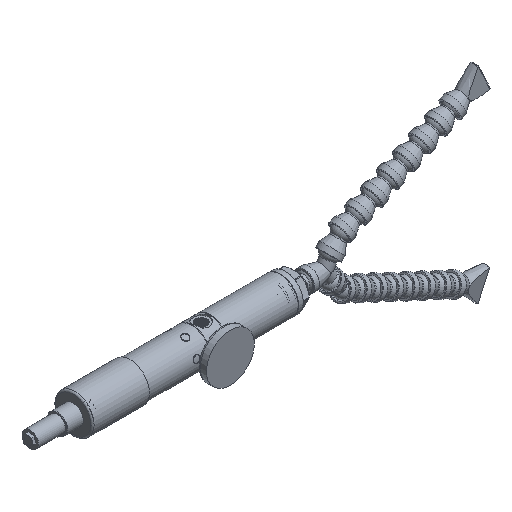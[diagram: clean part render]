
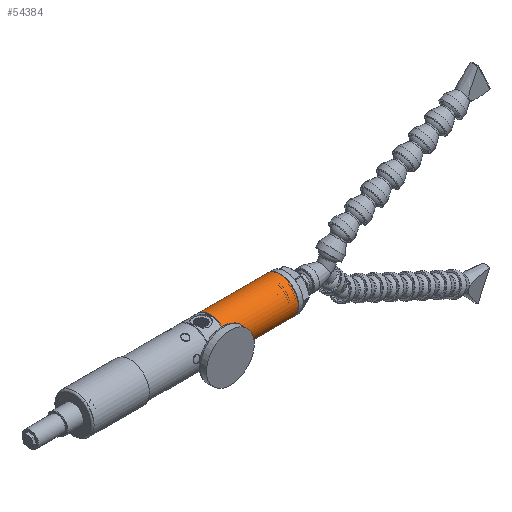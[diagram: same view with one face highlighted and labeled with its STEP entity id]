
A CAD part, isometric view. The second image highlights one B-rep face of the part: STEP entity #54384.
In plain terms, the highlighted cylindrical face has radius 21.5 mm (diameter 43 mm), a full revolution.
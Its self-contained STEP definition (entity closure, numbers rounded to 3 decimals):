
#3809 = AXIS2_PLACEMENT_3D ( 'NONE', #53349, #38456, #31931 ) ;
#10501 = DIRECTION ( 'NONE',  ( 0., -0.937, -0.35 ) ) ;
#15456 = EDGE_LOOP ( 'NONE', ( #24782 ) ) ;
#19971 = DIRECTION ( 'NONE',  ( 0., -0.937, -0.35 ) ) ;
#24782 = ORIENTED_EDGE ( 'NONE', *, *, #41653, .T. ) ;
#25416 = AXIS2_PLACEMENT_3D ( 'NONE', #63605, #26991, #10501 ) ;
#26991 = DIRECTION ( 'NONE',  ( 1., 0., 0. ) ) ;
#28943 = VERTEX_POINT ( 'NONE', #49309 ) ;
#29464 = EDGE_LOOP ( 'NONE', ( #39329 ) ) ;
#29810 = CIRCLE ( 'NONE', #25416, 21.5 ) ;
#31931 = DIRECTION ( 'NONE',  ( 0., 0.937, 0.35 ) ) ;
#32597 = CYLINDRICAL_SURFACE ( 'NONE', #3809, 21.5 ) ;
#37765 = FACE_OUTER_BOUND ( 'NONE', #29464, .T. ) ;
#38456 = DIRECTION ( 'NONE',  ( 1., 0., 0. ) ) ;
#39329 = ORIENTED_EDGE ( 'NONE', *, *, #44066, .T. ) ;
#41653 = EDGE_CURVE ( 'NONE', #41767, #41767, #29810, .T. ) ;
#41767 = VERTEX_POINT ( 'NONE', #42452 ) ;
#42452 = CARTESIAN_POINT ( 'NONE',  ( 10.95, 14.859, -7.524 ) ) ;
#44066 = EDGE_CURVE ( 'NONE', #28943, #28943, #51960, .T. ) ;
#49309 = CARTESIAN_POINT ( 'NONE',  ( 94.45, 14.859, -7.524 ) ) ;
#51960 = CIRCLE ( 'NONE', #65245, 21.5 ) ;
#53349 = CARTESIAN_POINT ( 'NONE',  ( 10.7, 35., 0. ) ) ;
#54384 = ADVANCED_FACE ( 'NONE', ( #58504, #37765 ), #32597, .T. ) ;
#58504 = FACE_OUTER_BOUND ( 'NONE', #15456, .T. ) ;
#63605 = CARTESIAN_POINT ( 'NONE',  ( 10.95, 35., 0. ) ) ;
#65245 = AXIS2_PLACEMENT_3D ( 'NONE', #67909, #67223, #19971 ) ;
#67223 = DIRECTION ( 'NONE',  ( -1., 0., 0. ) ) ;
#67909 = CARTESIAN_POINT ( 'NONE',  ( 94.45, 35., 0. ) ) ;
